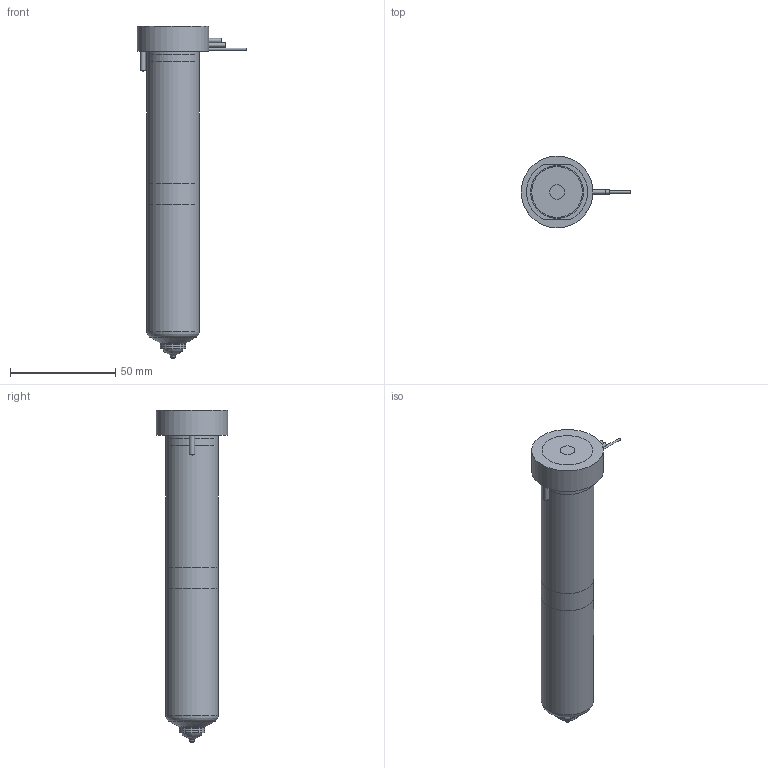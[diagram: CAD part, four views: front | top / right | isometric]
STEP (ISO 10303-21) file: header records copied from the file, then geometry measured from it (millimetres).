
FILE_DESCRIPTION(/* description */ (''),/* implementation_level */ '2;1');
FILE_NAME(/* name */ 'MXOV16145_200C_b',/* time_stamp */ '2007-01-18T09:49:39+13:00',/* author */ (''),/* organization */ (''),/* preprocessor_version */ 'ST-DEVELOPER v9',/* originating_system */ 'UGS - NX 4.0',/* authorisation */ '');
FILE_SCHEMA (('CONFIG_CONTROL_DESIGN'));
Length unit declared in the file: millimetre
Products named in the file (1): MXOV16145_200C_b
Bounding box: 51.95 x 34 x 157.38 mm (x, y, z)
Volume: 136885.8 mm3; surface area: 28548.6 mm2
Topology: 7 solids, 7 shells, 90 faces, 170 edges, 108 vertices
Faces by surface type: plane 37, cylinder 29, cone 13, torus 8, bspline 3
Full cylindrical faces by diameter (mm): 1 x3, 2 x2, 2.5 x3, 7 x1, 7.8 x1, 8 x1, 11.61 x1, 12.01 x2, 14.8 x1, 20.8 x1, 24.9 x2, 25 x2, 34 x1
Entity records: 2168 total; most frequent: CARTESIAN_POINT 462, DIRECTION 366, ORIENTED_EDGE 236, AXIS2_PLACEMENT_3D 170, EDGE_LOOP 146, EDGE_CURVE 118, VERTEX_POINT 99, ADVANCED_FACE 90
